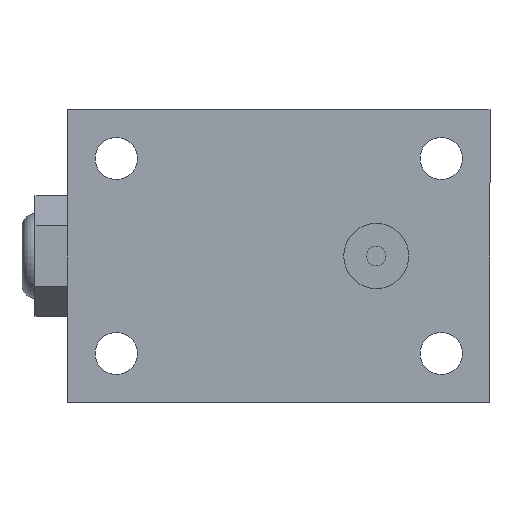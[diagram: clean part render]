
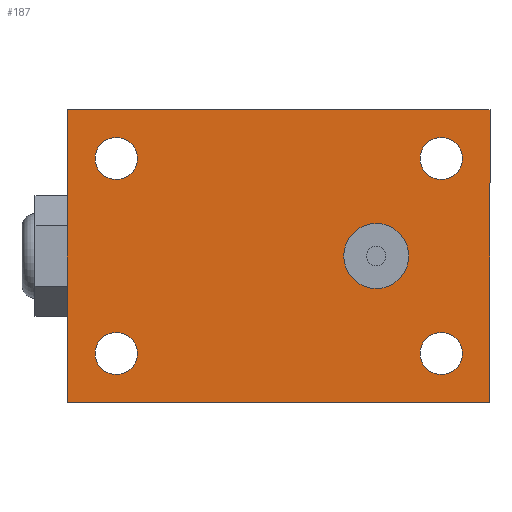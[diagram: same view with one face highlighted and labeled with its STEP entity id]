
A CAD part, front view. The second image highlights one B-rep face of the part: STEP entity #187.
In plain terms, the highlighted planar face has unit normal (0, -1, 0).
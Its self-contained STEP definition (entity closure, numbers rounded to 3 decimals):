
#5 = DIRECTION ( 'NONE',  ( 0., -1., 0. ) ) ;
#14 = VERTEX_POINT ( 'NONE', #527 ) ;
#16 = ORIENTED_EDGE ( 'NONE', *, *, #1247, .F. ) ;
#24 = CIRCLE ( 'NONE', #715, 3.25 ) ;
#33 = VERTEX_POINT ( 'NONE', #1448 ) ;
#47 = AXIS2_PLACEMENT_3D ( 'NONE', #396, #146, #742 ) ;
#64 = ORIENTED_EDGE ( 'NONE', *, *, #557, .F. ) ;
#71 = CARTESIAN_POINT ( 'NONE',  ( -32.5, 0., -22.5 ) ) ;
#93 = CARTESIAN_POINT ( 'NONE',  ( -32.5, 0., -22.5 ) ) ;
#98 = VECTOR ( 'NONE', #1257, 1000. ) ;
#99 = CIRCLE ( 'NONE', #938, 3.25 ) ;
#101 = DIRECTION ( 'NONE',  ( 0., 0., -1. ) ) ;
#104 = EDGE_LOOP ( 'NONE', ( #664, #137, #504, #694 ) ) ;
#106 = AXIS2_PLACEMENT_3D ( 'NONE', #1323, #630, #1443 ) ;
#110 = DIRECTION ( 'NONE',  ( 0., 1., 0. ) ) ;
#132 = FACE_BOUND ( 'NONE', #184, .T. ) ;
#137 = ORIENTED_EDGE ( 'NONE', *, *, #1091, .F. ) ;
#141 = VERTEX_POINT ( 'NONE', #1001 ) ;
#145 = FACE_BOUND ( 'NONE', #832, .T. ) ;
#146 = DIRECTION ( 'NONE',  ( 0., -1., 0. ) ) ;
#158 = VECTOR ( 'NONE', #1059, 1000. ) ;
#164 = DIRECTION ( 'NONE',  ( 0., 0., -1. ) ) ;
#184 = EDGE_LOOP ( 'NONE', ( #64, #1519 ) ) ;
#187 = ADVANCED_FACE ( 'NONE', ( #145, #1003, #132, #1331, #293, #1029 ), #1477, .F. ) ;
#194 = VERTEX_POINT ( 'NONE', #1290 ) ;
#206 = DIRECTION ( 'NONE',  ( 0., -1., 0. ) ) ;
#214 = CARTESIAN_POINT ( 'NONE',  ( 15., 0., 0. ) ) ;
#221 = CARTESIAN_POINT ( 'NONE',  ( 25., 0., -15. ) ) ;
#224 = CARTESIAN_POINT ( 'NONE',  ( -25., 0., 15. ) ) ;
#236 = EDGE_CURVE ( 'NONE', #1093, #1049, #846, .T. ) ;
#245 = LINE ( 'NONE', #768, #1303 ) ;
#246 = DIRECTION ( 'NONE',  ( 0., 0., -1. ) ) ;
#285 = VERTEX_POINT ( 'NONE', #1040 ) ;
#289 = AXIS2_PLACEMENT_3D ( 'NONE', #1447, #981, #164 ) ;
#293 = FACE_BOUND ( 'NONE', #808, .T. ) ;
#350 = CIRCLE ( 'NONE', #106, 3.25 ) ;
#353 = EDGE_CURVE ( 'NONE', #285, #826, #673, .T. ) ;
#359 = ORIENTED_EDGE ( 'NONE', *, *, #1408, .F. ) ;
#363 = CARTESIAN_POINT ( 'NONE',  ( -25., 0., 15. ) ) ;
#387 = CARTESIAN_POINT ( 'NONE',  ( 25., 0., -11.75 ) ) ;
#396 = CARTESIAN_POINT ( 'NONE',  ( 25., 0., 15. ) ) ;
#408 = AXIS2_PLACEMENT_3D ( 'NONE', #941, #1401, #246 ) ;
#412 = ORIENTED_EDGE ( 'NONE', *, *, #353, .F. ) ;
#414 = ORIENTED_EDGE ( 'NONE', *, *, #579, .F. ) ;
#440 = EDGE_CURVE ( 'NONE', #14, #194, #1233, .T. ) ;
#468 = DIRECTION ( 'NONE',  ( 0., 0., 1. ) ) ;
#475 = EDGE_CURVE ( 'NONE', #1180, #672, #1277, .T. ) ;
#487 = DIRECTION ( 'NONE',  ( 0., 0., -1. ) ) ;
#504 = ORIENTED_EDGE ( 'NONE', *, *, #1298, .F. ) ;
#517 = CARTESIAN_POINT ( 'NONE',  ( -32.5, 0., -22.5 ) ) ;
#527 = CARTESIAN_POINT ( 'NONE',  ( 32.5, 0., 22.5 ) ) ;
#535 = CARTESIAN_POINT ( 'NONE',  ( -25., 0., -11.75 ) ) ;
#550 = EDGE_CURVE ( 'NONE', #194, #979, #1500, .T. ) ;
#557 = EDGE_CURVE ( 'NONE', #1239, #599, #350, .T. ) ;
#571 = CARTESIAN_POINT ( 'NONE',  ( 25., 0., 18.25 ) ) ;
#579 = EDGE_CURVE ( 'NONE', #33, #1436, #1035, .T. ) ;
#599 = VERTEX_POINT ( 'NONE', #535 ) ;
#630 = DIRECTION ( 'NONE',  ( 0., -1., 0. ) ) ;
#641 = EDGE_LOOP ( 'NONE', ( #412, #359 ) ) ;
#664 = ORIENTED_EDGE ( 'NONE', *, *, #440, .F. ) ;
#672 = VERTEX_POINT ( 'NONE', #1006 ) ;
#673 = CIRCLE ( 'NONE', #1154, 3.25 ) ;
#676 = AXIS2_PLACEMENT_3D ( 'NONE', #224, #1381, #693 ) ;
#690 = CARTESIAN_POINT ( 'NONE',  ( -25., 0., 18.25 ) ) ;
#693 = DIRECTION ( 'NONE',  ( 0., 0., -1. ) ) ;
#694 = ORIENTED_EDGE ( 'NONE', *, *, #550, .F. ) ;
#701 = EDGE_CURVE ( 'NONE', #1049, #1093, #24, .T. ) ;
#706 = CARTESIAN_POINT ( 'NONE',  ( 25., 0., -15. ) ) ;
#715 = AXIS2_PLACEMENT_3D ( 'NONE', #221, #1147, #788 ) ;
#742 = DIRECTION ( 'NONE',  ( 0., 0., -1. ) ) ;
#768 = CARTESIAN_POINT ( 'NONE',  ( -32.5, 0., 22.5 ) ) ;
#788 = DIRECTION ( 'NONE',  ( 0., 0., -1. ) ) ;
#808 = EDGE_LOOP ( 'NONE', ( #963, #16 ) ) ;
#826 = VERTEX_POINT ( 'NONE', #690 ) ;
#832 = EDGE_LOOP ( 'NONE', ( #414, #857 ) ) ;
#846 = CIRCLE ( 'NONE', #1293, 3.25 ) ;
#857 = ORIENTED_EDGE ( 'NONE', *, *, #1485, .F. ) ;
#883 = DIRECTION ( 'NONE',  ( 1., 0., 0. ) ) ;
#938 = AXIS2_PLACEMENT_3D ( 'NONE', #1122, #1009, #1363 ) ;
#941 = CARTESIAN_POINT ( 'NONE',  ( 15., 0., 0. ) ) ;
#963 = ORIENTED_EDGE ( 'NONE', *, *, #475, .F. ) ;
#979 = VERTEX_POINT ( 'NONE', #71 ) ;
#981 = DIRECTION ( 'NONE',  ( 0., -1., 0. ) ) ;
#1001 = CARTESIAN_POINT ( 'NONE',  ( -32.5, 0., 22.5 ) ) ;
#1003 = FACE_BOUND ( 'NONE', #1456, .T. ) ;
#1006 = CARTESIAN_POINT ( 'NONE',  ( 15., 0., 5. ) ) ;
#1007 = CIRCLE ( 'NONE', #1074, 5. ) ;
#1009 = DIRECTION ( 'NONE',  ( 0., -1., 0. ) ) ;
#1029 = FACE_OUTER_BOUND ( 'NONE', #104, .T. ) ;
#1035 = CIRCLE ( 'NONE', #289, 3.25 ) ;
#1040 = CARTESIAN_POINT ( 'NONE',  ( -25., 0., 11.75 ) ) ;
#1049 = VERTEX_POINT ( 'NONE', #1138 ) ;
#1059 = DIRECTION ( 'NONE',  ( 0., 0., -1. ) ) ;
#1074 = AXIS2_PLACEMENT_3D ( 'NONE', #214, #206, #101 ) ;
#1091 = EDGE_CURVE ( 'NONE', #141, #14, #245, .T. ) ;
#1093 = VERTEX_POINT ( 'NONE', #387 ) ;
#1122 = CARTESIAN_POINT ( 'NONE',  ( -25., 0., -15. ) ) ;
#1138 = CARTESIAN_POINT ( 'NONE',  ( 25., 0., -18.25 ) ) ;
#1147 = DIRECTION ( 'NONE',  ( 0., -1., 0. ) ) ;
#1154 = AXIS2_PLACEMENT_3D ( 'NONE', #363, #1174, #487 ) ;
#1156 = CARTESIAN_POINT ( 'NONE',  ( -25., 0., -18.25 ) ) ;
#1161 = CIRCLE ( 'NONE', #676, 3.25 ) ;
#1174 = DIRECTION ( 'NONE',  ( 0., -1., 0. ) ) ;
#1180 = VERTEX_POINT ( 'NONE', #1208 ) ;
#1189 = LINE ( 'NONE', #93, #98 ) ;
#1203 = VECTOR ( 'NONE', #1205, 1000. ) ;
#1204 = CIRCLE ( 'NONE', #47, 3.25 ) ;
#1205 = DIRECTION ( 'NONE',  ( -1., 0., 0. ) ) ;
#1206 = AXIS2_PLACEMENT_3D ( 'NONE', #1380, #110, #468 ) ;
#1208 = CARTESIAN_POINT ( 'NONE',  ( 15., 0., -5. ) ) ;
#1233 = LINE ( 'NONE', #1295, #158 ) ;
#1239 = VERTEX_POINT ( 'NONE', #1156 ) ;
#1247 = EDGE_CURVE ( 'NONE', #672, #1180, #1007, .T. ) ;
#1257 = DIRECTION ( 'NONE',  ( 0., 0., 1. ) ) ;
#1277 = CIRCLE ( 'NONE', #408, 5. ) ;
#1290 = CARTESIAN_POINT ( 'NONE',  ( 32.5, 0., -22.5 ) ) ;
#1293 = AXIS2_PLACEMENT_3D ( 'NONE', #706, #5, #1526 ) ;
#1295 = CARTESIAN_POINT ( 'NONE',  ( 32.5, 0., -22.5 ) ) ;
#1298 = EDGE_CURVE ( 'NONE', #979, #141, #1189, .T. ) ;
#1303 = VECTOR ( 'NONE', #883, 1000. ) ;
#1323 = CARTESIAN_POINT ( 'NONE',  ( -25., 0., -15. ) ) ;
#1331 = FACE_BOUND ( 'NONE', #641, .T. ) ;
#1343 = ORIENTED_EDGE ( 'NONE', *, *, #236, .F. ) ;
#1363 = DIRECTION ( 'NONE',  ( 0., 0., -1. ) ) ;
#1379 = ORIENTED_EDGE ( 'NONE', *, *, #701, .F. ) ;
#1380 = CARTESIAN_POINT ( 'NONE',  ( 0., 0., 0. ) ) ;
#1381 = DIRECTION ( 'NONE',  ( 0., -1., 0. ) ) ;
#1385 = EDGE_CURVE ( 'NONE', #599, #1239, #99, .T. ) ;
#1401 = DIRECTION ( 'NONE',  ( 0., -1., 0. ) ) ;
#1408 = EDGE_CURVE ( 'NONE', #826, #285, #1161, .T. ) ;
#1436 = VERTEX_POINT ( 'NONE', #571 ) ;
#1443 = DIRECTION ( 'NONE',  ( 0., 0., -1. ) ) ;
#1447 = CARTESIAN_POINT ( 'NONE',  ( 25., 0., 15. ) ) ;
#1448 = CARTESIAN_POINT ( 'NONE',  ( 25., 0., 11.75 ) ) ;
#1456 = EDGE_LOOP ( 'NONE', ( #1379, #1343 ) ) ;
#1477 = PLANE ( 'NONE',  #1206 ) ;
#1485 = EDGE_CURVE ( 'NONE', #1436, #33, #1204, .T. ) ;
#1500 = LINE ( 'NONE', #517, #1203 ) ;
#1519 = ORIENTED_EDGE ( 'NONE', *, *, #1385, .F. ) ;
#1526 = DIRECTION ( 'NONE',  ( 0., 0., -1. ) ) ;
